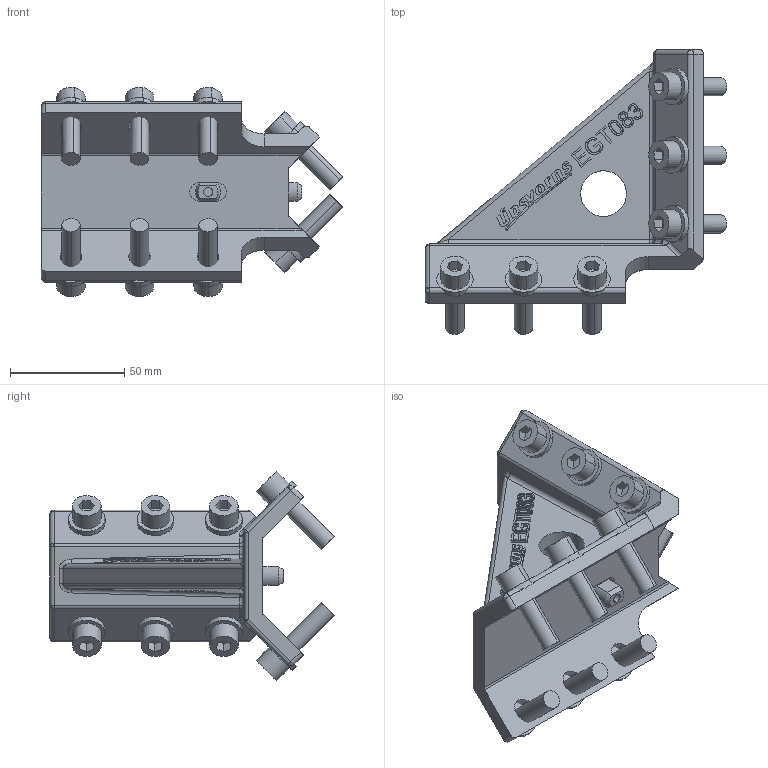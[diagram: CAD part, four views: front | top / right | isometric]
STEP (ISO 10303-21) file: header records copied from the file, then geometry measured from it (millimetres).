
FILE_DESCRIPTION(('CATIA V5 STEP Exchange'),'2;1');
FILE_NAME('C:\Users\User\Desktop\stp\EGT083.stp','2017-07-21T01:28:40+00:00',('none'),('none'),'CATIA Version 5 Release 21 GA (IN-10)','CATIA V5 STEP AP203','none');
FILE_SCHEMA(('CONFIG_CONTROL_DESIGN'));
Products named in the file (1): Y800830001JV01-CN0033.1-083-J
Bounding box: 131.94 x 124.57 x 91.56 mm (x, y, z)
Volume: 186762 mm3; surface area: 63474.7 mm2
Topology: 32 solids, 32 shells, 1614 faces, 4493 edges, 2966 vertices
Faces by surface type: plane 1328, cylinder 156, extrusion 100, sphere 18, bspline 7, cone 4, torus 1
Entity records: 53166 total; most frequent: CARTESIAN_POINT 12416, ORIENTED_EDGE 8952, DIRECTION 7282, EDGE_CURVE 4476, VECTOR 4029, LINE 3929, VERTEX_POINT 2966, AXIS2_PLACEMENT_3D 1756
